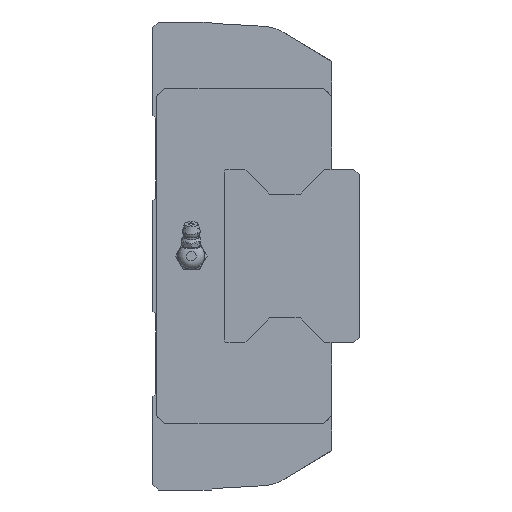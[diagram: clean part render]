
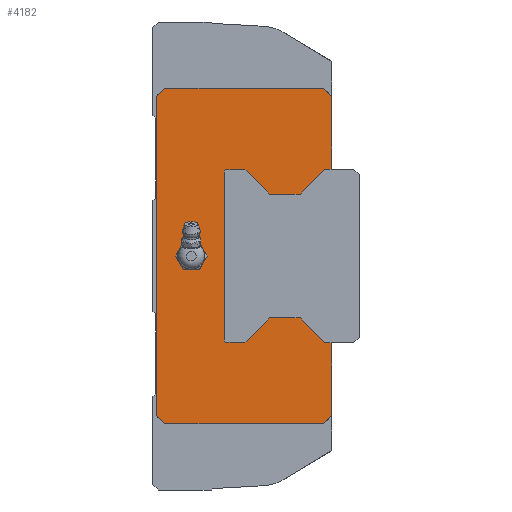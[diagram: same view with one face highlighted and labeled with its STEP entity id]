
A CAD part, left-side view. The second image highlights one B-rep face of the part: STEP entity #4182.
In plain terms, the highlighted planar face has unit normal (-1, 0, 0).
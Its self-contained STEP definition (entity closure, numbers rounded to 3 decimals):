
#246=CIRCLE('',#4555,4.864);
#247=CIRCLE('',#4556,1.);
#248=CIRCLE('',#4557,1.);
#723=ORIENTED_EDGE('',*,*,#1681,.T.);
#724=ORIENTED_EDGE('',*,*,#1682,.T.);
#725=ORIENTED_EDGE('',*,*,#1670,.F.);
#726=ORIENTED_EDGE('',*,*,#1634,.F.);
#727=ORIENTED_EDGE('',*,*,#1630,.F.);
#728=ORIENTED_EDGE('',*,*,#1622,.F.);
#729=ORIENTED_EDGE('',*,*,#1658,.F.);
#730=ORIENTED_EDGE('',*,*,#1607,.F.);
#731=ORIENTED_EDGE('',*,*,#1645,.F.);
#732=ORIENTED_EDGE('',*,*,#1642,.F.);
#733=ORIENTED_EDGE('',*,*,#1672,.F.);
#734=ORIENTED_EDGE('',*,*,#1683,.T.);
#735=ORIENTED_EDGE('',*,*,#1684,.T.);
#736=ORIENTED_EDGE('',*,*,#1685,.T.);
#737=ORIENTED_EDGE('',*,*,#1686,.T.);
#738=ORIENTED_EDGE('',*,*,#1687,.T.);
#739=ORIENTED_EDGE('',*,*,#1688,.T.);
#740=ORIENTED_EDGE('',*,*,#1689,.T.);
#741=ORIENTED_EDGE('',*,*,#1690,.T.);
#742=ORIENTED_EDGE('',*,*,#1560,.T.);
#743=ORIENTED_EDGE('',*,*,#1691,.T.);
#744=ORIENTED_EDGE('',*,*,#1692,.T.);
#745=ORIENTED_EDGE('',*,*,#1693,.T.);
#746=ORIENTED_EDGE('',*,*,#1694,.T.);
#747=ORIENTED_EDGE('',*,*,#1695,.T.);
#748=ORIENTED_EDGE('',*,*,#1696,.T.);
#749=ORIENTED_EDGE('',*,*,#1697,.T.);
#1560=EDGE_CURVE('',#2095,#2097,#2457,.T.);
#1607=EDGE_CURVE('',#2136,#2137,#2502,.T.);
#1622=EDGE_CURVE('',#2151,#2152,#2517,.T.);
#1630=EDGE_CURVE('',#2152,#2158,#2524,.T.);
#1634=EDGE_CURVE('',#2158,#2160,#2528,.T.);
#1642=EDGE_CURVE('',#2167,#2168,#2536,.T.);
#1645=EDGE_CURVE('',#2168,#2136,#2539,.T.);
#1658=EDGE_CURVE('',#2137,#2151,#2547,.T.);
#1670=EDGE_CURVE('',#2160,#2175,#2557,.T.);
#1672=EDGE_CURVE('',#2182,#2167,#2559,.T.);
#1681=EDGE_CURVE('',#2190,#2190,#246,.T.);
#1682=EDGE_CURVE('',#2191,#2175,#2566,.T.);
#1683=EDGE_CURVE('',#2182,#2192,#2567,.T.);
#1684=EDGE_CURVE('',#2192,#2193,#2568,.T.);
#1685=EDGE_CURVE('',#2193,#2194,#2569,.T.);
#1686=EDGE_CURVE('',#2194,#2195,#2570,.T.);
#1687=EDGE_CURVE('',#2195,#2196,#2571,.T.);
#1688=EDGE_CURVE('',#2196,#2197,#2572,.T.);
#1689=EDGE_CURVE('',#2197,#2198,#2573,.T.);
#1690=EDGE_CURVE('',#2198,#2095,#247,.T.);
#1691=EDGE_CURVE('',#2097,#2199,#248,.T.);
#1692=EDGE_CURVE('',#2199,#2200,#2574,.T.);
#1693=EDGE_CURVE('',#2200,#2201,#2575,.T.);
#1694=EDGE_CURVE('',#2201,#2202,#2576,.T.);
#1695=EDGE_CURVE('',#2202,#2203,#2577,.T.);
#1696=EDGE_CURVE('',#2203,#2204,#2578,.T.);
#1697=EDGE_CURVE('',#2204,#2191,#2579,.T.);
#2095=VERTEX_POINT('',#6300);
#2097=VERTEX_POINT('',#6304);
#2136=VERTEX_POINT('',#6399);
#2137=VERTEX_POINT('',#6401);
#2151=VERTEX_POINT('',#6430);
#2152=VERTEX_POINT('',#6432);
#2158=VERTEX_POINT('',#6448);
#2160=VERTEX_POINT('',#6455);
#2167=VERTEX_POINT('',#6470);
#2168=VERTEX_POINT('',#6472);
#2175=VERTEX_POINT('',#6507);
#2182=VERTEX_POINT('',#6525);
#2190=VERTEX_POINT('',#6544);
#2191=VERTEX_POINT('',#6546);
#2192=VERTEX_POINT('',#6548);
#2193=VERTEX_POINT('',#6550);
#2194=VERTEX_POINT('',#6552);
#2195=VERTEX_POINT('',#6554);
#2196=VERTEX_POINT('',#6556);
#2197=VERTEX_POINT('',#6558);
#2198=VERTEX_POINT('',#6560);
#2199=VERTEX_POINT('',#6563);
#2200=VERTEX_POINT('',#6565);
#2201=VERTEX_POINT('',#6567);
#2202=VERTEX_POINT('',#6569);
#2203=VERTEX_POINT('',#6571);
#2204=VERTEX_POINT('',#6573);
#2457=LINE('',#6305,#2825);
#2502=LINE('',#6400,#2870);
#2517=LINE('',#6431,#2885);
#2524=LINE('',#6447,#2892);
#2528=LINE('',#6454,#2896);
#2536=LINE('',#6471,#2904);
#2539=LINE('',#6476,#2907);
#2547=LINE('',#6500,#2915);
#2557=LINE('',#6522,#2925);
#2559=LINE('',#6527,#2927);
#2566=LINE('',#6545,#2934);
#2567=LINE('',#6547,#2935);
#2568=LINE('',#6549,#2936);
#2569=LINE('',#6551,#2937);
#2570=LINE('',#6553,#2938);
#2571=LINE('',#6555,#2939);
#2572=LINE('',#6557,#2940);
#2573=LINE('',#6559,#2941);
#2574=LINE('',#6564,#2942);
#2575=LINE('',#6566,#2943);
#2576=LINE('',#6568,#2944);
#2577=LINE('',#6570,#2945);
#2578=LINE('',#6572,#2946);
#2579=LINE('',#6574,#2947);
#2825=VECTOR('',#5141,1000.);
#2870=VECTOR('',#5208,1000.);
#2885=VECTOR('',#5225,1000.);
#2892=VECTOR('',#5238,1000.);
#2896=VECTOR('',#5244,1000.);
#2904=VECTOR('',#5254,1000.);
#2907=VECTOR('',#5259,1000.);
#2915=VECTOR('',#5289,1000.);
#2925=VECTOR('',#5307,1000.);
#2927=VECTOR('',#5311,1000.);
#2934=VECTOR('',#5326,1000.);
#2935=VECTOR('',#5327,1000.);
#2936=VECTOR('',#5328,1000.);
#2937=VECTOR('',#5329,1000.);
#2938=VECTOR('',#5330,1000.);
#2939=VECTOR('',#5331,1000.);
#2940=VECTOR('',#5332,1000.);
#2941=VECTOR('',#5333,1000.);
#2942=VECTOR('',#5338,1000.);
#2943=VECTOR('',#5339,1000.);
#2944=VECTOR('',#5340,1000.);
#2945=VECTOR('',#5341,1000.);
#2946=VECTOR('',#5342,1000.);
#2947=VECTOR('',#5343,1000.);
#3323=EDGE_LOOP('',(#723));
#3324=EDGE_LOOP('',(#724,#725,#726,#727,#728,#729,#730,#731,#732,#733,#734,
#735,#736,#737,#738,#739,#740,#741,#742,#743,#744,#745,#746,#747,#748,#749));
#3716=FACE_BOUND('',#3323,.T.);
#3717=FACE_BOUND('',#3324,.T.);
#3982=PLANE('',#4554);
#4182=ADVANCED_FACE('',(#3716,#3717),#3982,.F.);
#4554=AXIS2_PLACEMENT_3D('',#6542,#5322,#5323);
#4555=AXIS2_PLACEMENT_3D('',#6543,#5324,#5325);
#4556=AXIS2_PLACEMENT_3D('',#6561,#5334,#5335);
#4557=AXIS2_PLACEMENT_3D('',#6562,#5336,#5337);
#5141=DIRECTION('',(0.,0.,1.));
#5208=DIRECTION('',(0.,0.707,0.707));
#5225=DIRECTION('',(0.,-0.707,0.707));
#5238=DIRECTION('',(0.,-1.,0.));
#5244=DIRECTION('',(0.,-0.707,-0.707));
#5254=DIRECTION('',(0.,0.707,-0.707));
#5259=DIRECTION('',(0.,1.,0.));
#5289=DIRECTION('',(0.,0.,1.));
#5307=DIRECTION('',(0.,0.,-1.));
#5311=DIRECTION('',(0.,0.,-1.));
#5322=DIRECTION('',(1.,0.,0.));
#5323=DIRECTION('',(0.,0.,-1.));
#5324=DIRECTION('',(1.,0.,0.));
#5325=DIRECTION('',(0.,0.,-1.));
#5326=DIRECTION('',(0.,-1.,0.));
#5327=DIRECTION('',(0.,1.,0.));
#5328=DIRECTION('',(0.,0.707,0.707));
#5329=DIRECTION('',(0.,1.,0.));
#5330=DIRECTION('',(0.,0.707,-0.707));
#5331=DIRECTION('',(0.,1.,0.));
#5332=DIRECTION('',(0.,0.707,0.707));
#5333=DIRECTION('',(0.,1.,0.));
#5334=DIRECTION('',(1.,0.,0.));
#5335=DIRECTION('',(0.,0.,-1.));
#5336=DIRECTION('',(1.,0.,0.));
#5337=DIRECTION('',(0.,0.,-1.));
#5338=DIRECTION('',(0.,-1.,0.));
#5339=DIRECTION('',(0.,-0.707,0.707));
#5340=DIRECTION('',(0.,-1.,0.));
#5341=DIRECTION('',(0.,-0.707,-0.707));
#5342=DIRECTION('',(0.,-1.,0.));
#5343=DIRECTION('',(0.,-0.707,0.707));
#6300=CARTESIAN_POINT('',(-122.45,39.,-30.5));
#6304=CARTESIAN_POINT('',(-122.45,39.,30.5));
#6305=CARTESIAN_POINT('',(-122.45,39.,-30.5));
#6399=CARTESIAN_POINT('',(-122.45,60.6,-61.));
#6400=CARTESIAN_POINT('',(-122.45,60.6,-61.));
#6401=CARTESIAN_POINT('',(-122.45,63.6,-58.));
#6430=CARTESIAN_POINT('',(-122.45,63.6,58.));
#6431=CARTESIAN_POINT('',(-122.45,63.6,58.));
#6432=CARTESIAN_POINT('',(-122.45,60.6,61.));
#6447=CARTESIAN_POINT('',(-122.45,60.6,61.));
#6448=CARTESIAN_POINT('',(-122.45,3.,61.));
#6454=CARTESIAN_POINT('',(-122.45,3.,61.));
#6455=CARTESIAN_POINT('',(-122.45,0.,58.));
#6470=CARTESIAN_POINT('',(-122.45,0.,-58.));
#6471=CARTESIAN_POINT('',(-122.45,0.,-58.));
#6472=CARTESIAN_POINT('',(-122.45,3.,-61.));
#6476=CARTESIAN_POINT('',(-122.45,3.,-61.));
#6500=CARTESIAN_POINT('',(-122.45,63.6,-58.));
#6507=CARTESIAN_POINT('',(-122.45,0.,31.5));
#6522=CARTESIAN_POINT('',(-122.45,0.,58.));
#6525=CARTESIAN_POINT('',(-122.45,0.,-31.5));
#6527=CARTESIAN_POINT('',(-122.45,0.,58.));
#6542=CARTESIAN_POINT('',(-122.45,0.,0.));
#6543=CARTESIAN_POINT('',(-122.45,51.,0.));
#6544=CARTESIAN_POINT('',(-122.45,51.,-4.864));
#6545=CARTESIAN_POINT('',(-122.45,2.5,31.5));
#6546=CARTESIAN_POINT('',(-122.45,2.5,31.5));
#6547=CARTESIAN_POINT('',(-122.45,-8.,-31.5));
#6548=CARTESIAN_POINT('',(-122.45,2.5,-31.5));
#6549=CARTESIAN_POINT('',(-122.45,2.5,-31.5));
#6550=CARTESIAN_POINT('',(-122.45,11.5,-22.5));
#6551=CARTESIAN_POINT('',(-122.45,11.5,-22.5));
#6552=CARTESIAN_POINT('',(-122.45,22.5,-22.5));
#6553=CARTESIAN_POINT('',(-122.45,22.5,-22.5));
#6554=CARTESIAN_POINT('',(-122.45,31.5,-31.5));
#6555=CARTESIAN_POINT('',(-122.45,31.5,-31.5));
#6556=CARTESIAN_POINT('',(-122.45,36.26,-31.5));
#6557=CARTESIAN_POINT('',(-122.45,36.26,-31.5));
#6558=CARTESIAN_POINT('',(-122.45,36.51,-31.25));
#6559=CARTESIAN_POINT('',(-122.45,36.51,-31.25));
#6560=CARTESIAN_POINT('',(-122.45,37.339,-31.25));
#6561=CARTESIAN_POINT('',(-122.45,38.,-30.5));
#6562=CARTESIAN_POINT('',(-122.45,38.,30.5));
#6563=CARTESIAN_POINT('',(-122.45,37.339,31.25));
#6564=CARTESIAN_POINT('',(-122.45,37.339,31.25));
#6565=CARTESIAN_POINT('',(-122.45,36.51,31.25));
#6566=CARTESIAN_POINT('',(-122.45,36.51,31.25));
#6567=CARTESIAN_POINT('',(-122.45,36.26,31.5));
#6568=CARTESIAN_POINT('',(-122.45,36.26,31.5));
#6569=CARTESIAN_POINT('',(-122.45,31.5,31.5));
#6570=CARTESIAN_POINT('',(-122.45,31.5,31.5));
#6571=CARTESIAN_POINT('',(-122.45,22.5,22.5));
#6572=CARTESIAN_POINT('',(-122.45,22.5,22.5));
#6573=CARTESIAN_POINT('',(-122.45,11.5,22.5));
#6574=CARTESIAN_POINT('',(-122.45,11.5,22.5));
